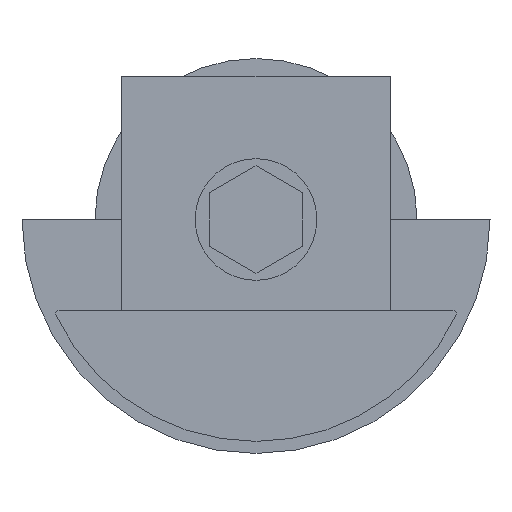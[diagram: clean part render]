
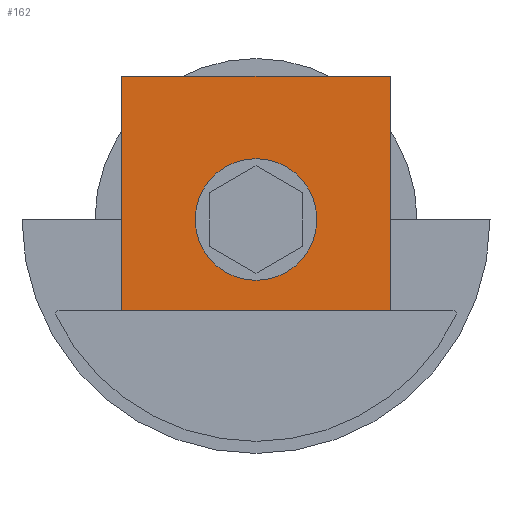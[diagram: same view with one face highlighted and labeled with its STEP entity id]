
A CAD part, left-side view. The second image highlights one B-rep face of the part: STEP entity #162.
In plain terms, the highlighted planar face has unit normal (-1, 0, 0).
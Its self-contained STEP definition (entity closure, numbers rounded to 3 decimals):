
#26 = DIRECTION ( 'NONE',  ( -1., 0., 0. ) ) ;
#119 = CARTESIAN_POINT ( 'NONE',  ( -269.5, -51.45, 52.7 ) ) ;
#129 = DIRECTION ( 'NONE',  ( 0., 0., 1. ) ) ;
#150 = PLANE ( 'NONE',  #991 ) ;
#162 = ADVANCED_FACE ( 'NONE', ( #1079, #1398 ), #150, .F. ) ;
#222 = CARTESIAN_POINT ( 'NONE',  ( -269.5, -13.95, 20. ) ) ;
#326 = DIRECTION ( 'NONE',  ( 0., 0., -1. ) ) ;
#353 = EDGE_CURVE ( 'NONE', #811, #1253, #864, .T. ) ;
#420 = CARTESIAN_POINT ( 'NONE',  ( -269.5, -60.696, 20. ) ) ;
#426 = LINE ( 'NONE', #1040, #776 ) ;
#432 = CARTESIAN_POINT ( 'NONE',  ( -269.5, -32.7, 36.7 ) ) ;
#463 = ORIENTED_EDGE ( 'NONE', *, *, #951, .F. ) ;
#494 = EDGE_CURVE ( 'NONE', #1890, #1355, #1792, .T. ) ;
#495 = ORIENTED_EDGE ( 'NONE', *, *, #353, .F. ) ;
#532 = CARTESIAN_POINT ( 'NONE',  ( -269.5, -32.7, 32.7 ) ) ;
#607 = VECTOR ( 'NONE', #1335, 1000. ) ;
#663 = EDGE_LOOP ( 'NONE', ( #495, #463 ) ) ;
#693 = CARTESIAN_POINT ( 'NONE',  ( -269.5, -51.45, 20. ) ) ;
#741 = AXIS2_PLACEMENT_3D ( 'NONE', #532, #1780, #1468 ) ;
#746 = LINE ( 'NONE', #884, #1588 ) ;
#776 = VECTOR ( 'NONE', #129, 1000. ) ;
#811 = VERTEX_POINT ( 'NONE', #1351 ) ;
#864 = CIRCLE ( 'NONE', #741, 4. ) ;
#870 = EDGE_CURVE ( 'NONE', #1571, #1890, #1485, .T. ) ;
#882 = EDGE_CURVE ( 'NONE', #1355, #1594, #426, .T. ) ;
#884 = CARTESIAN_POINT ( 'NONE',  ( -269.5, -60.696, 52.7 ) ) ;
#951 = EDGE_CURVE ( 'NONE', #1253, #811, #1275, .T. ) ;
#991 = AXIS2_PLACEMENT_3D ( 'NONE', #1523, #1378, #1210 ) ;
#1013 = EDGE_CURVE ( 'NONE', #1571, #1594, #746, .T. ) ;
#1040 = CARTESIAN_POINT ( 'NONE',  ( -269.5, -13.95, 20. ) ) ;
#1079 = FACE_BOUND ( 'NONE', #663, .T. ) ;
#1098 = VECTOR ( 'NONE', #1641, 1000. ) ;
#1210 = DIRECTION ( 'NONE',  ( 0., -1., 0. ) ) ;
#1253 = VERTEX_POINT ( 'NONE', #432 ) ;
#1275 = CIRCLE ( 'NONE', #1662, 4. ) ;
#1287 = ORIENTED_EDGE ( 'NONE', *, *, #882, .F. ) ;
#1298 = ORIENTED_EDGE ( 'NONE', *, *, #1013, .T. ) ;
#1335 = DIRECTION ( 'NONE',  ( 0., 0., -1. ) ) ;
#1351 = CARTESIAN_POINT ( 'NONE',  ( -269.5, -32.7, 28.7 ) ) ;
#1355 = VERTEX_POINT ( 'NONE', #222 ) ;
#1364 = CARTESIAN_POINT ( 'NONE',  ( -269.5, -51.45, 52.7 ) ) ;
#1378 = DIRECTION ( 'NONE',  ( 1., 0., 0. ) ) ;
#1398 = FACE_OUTER_BOUND ( 'NONE', #1766, .T. ) ;
#1413 = ORIENTED_EDGE ( 'NONE', *, *, #494, .F. ) ;
#1468 = DIRECTION ( 'NONE',  ( 0., 0., -1. ) ) ;
#1485 = LINE ( 'NONE', #119, #607 ) ;
#1523 = CARTESIAN_POINT ( 'NONE',  ( -269.5, -60.696, 52.7 ) ) ;
#1544 = CARTESIAN_POINT ( 'NONE',  ( -269.5, -32.7, 32.7 ) ) ;
#1571 = VERTEX_POINT ( 'NONE', #1364 ) ;
#1588 = VECTOR ( 'NONE', #1968, 1000. ) ;
#1594 = VERTEX_POINT ( 'NONE', #1638 ) ;
#1638 = CARTESIAN_POINT ( 'NONE',  ( -269.5, -13.95, 52.7 ) ) ;
#1641 = DIRECTION ( 'NONE',  ( 0., 1., 0. ) ) ;
#1662 = AXIS2_PLACEMENT_3D ( 'NONE', #1544, #26, #326 ) ;
#1757 = ORIENTED_EDGE ( 'NONE', *, *, #870, .F. ) ;
#1766 = EDGE_LOOP ( 'NONE', ( #1298, #1287, #1413, #1757 ) ) ;
#1780 = DIRECTION ( 'NONE',  ( -1., 0., 0. ) ) ;
#1792 = LINE ( 'NONE', #420, #1098 ) ;
#1890 = VERTEX_POINT ( 'NONE', #693 ) ;
#1968 = DIRECTION ( 'NONE',  ( 0., 1., 0. ) ) ;
